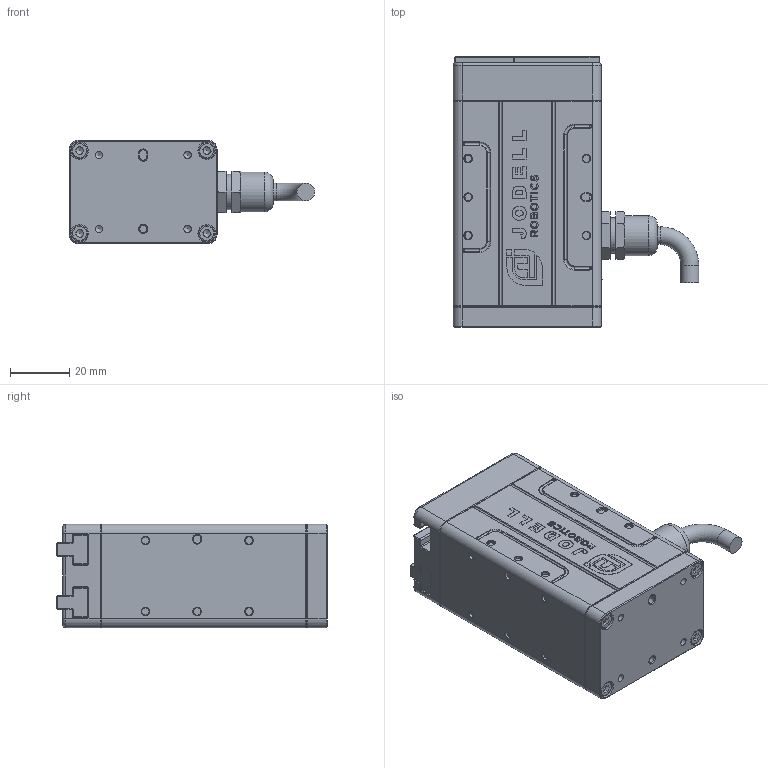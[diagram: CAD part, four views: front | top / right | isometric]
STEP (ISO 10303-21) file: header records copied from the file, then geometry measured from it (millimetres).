
FILE_DESCRIPTION (( 'STEP AP203' ), '1' );
FILE_NAME ('祥湍忒硌唳.STEP', '2022-03-23T09:03:52', ( 'User' ), ( 'China' ), 'SwSTEP 2.0', 'SolidWorks 2016', '' );
FILE_SCHEMA (( 'CONFIG_CONTROL_DESIGN' ));
Length unit declared in the file: millimetre
Products named in the file (2): 祥湍忒硌唳
Bounding box: 83 x 91.5 x 35 mm (x, y, z)
Volume: 156006 mm3; surface area: 34345.6 mm2
Topology: 11 solids, 11 shells, 1066 faces, 2539 edges, 1577 vertices
Faces by surface type: plane 551, bspline 170, cylinder 161, cone 133, torus 42, sphere 9
Full cylindrical faces by diameter (mm): 1 x3, 2.05 x4, 2.5 x22, 2.8 x2, 3 x4, 3.4 x4, 4 x1, 5.5 x4, 5.6 x1, 6 x6, 9 x1, 12 x3, 13.5 x1
Entity records: 30804 total; most frequent: CARTESIAN_POINT 7694, ORIENTED_EDGE 4756, DIRECTION 4295, EDGE_CURVE 2378, VERTEX_POINT 1535, VECTOR 1527, LINE 1527, AXIS2_PLACEMENT_3D 1384
